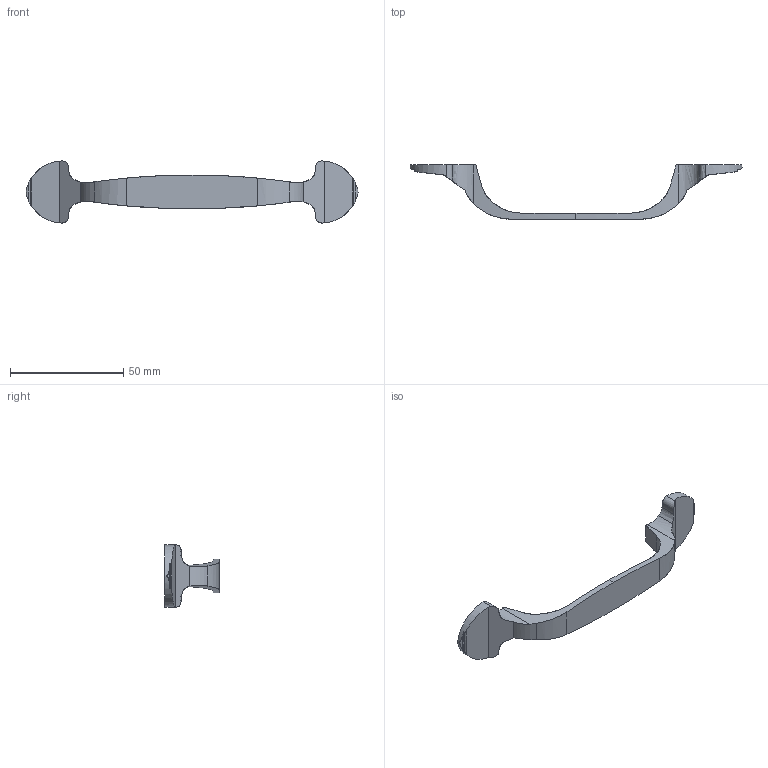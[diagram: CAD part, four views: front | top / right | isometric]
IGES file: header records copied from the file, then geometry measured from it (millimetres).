
Start section: Data from Parasolid IGES Translator 15.0.47, Copyright(c) 2006 Siemens P LM Software. All Rights Reserved.
Global section: file name: 9113439.igs; native system:  By UGS Corp.; preprocessor: XPlus GENERIC/IGES 3.0; author: Noname; organization: Noname; date: 20140122.102614; units: millimetre
Bounding box: 146.59 x 24 x 27.39 mm (x, y, z)
Surface area: 6679.3 mm2 (no closed solid volume)
Topology: 0 solids, 0 shells, 64 faces, 364 edges, 362 vertices
Faces by surface type: revolution 44, extrusion 20
